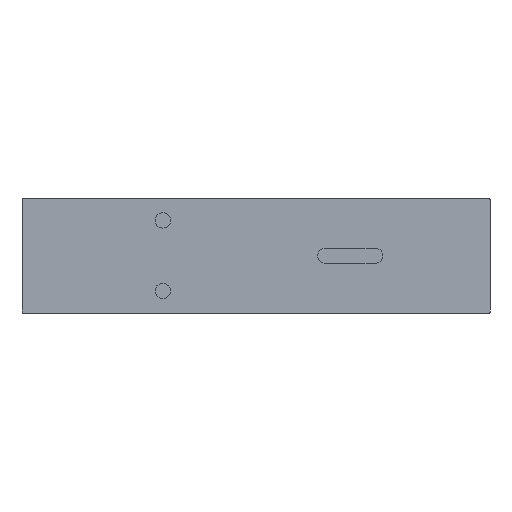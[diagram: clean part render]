
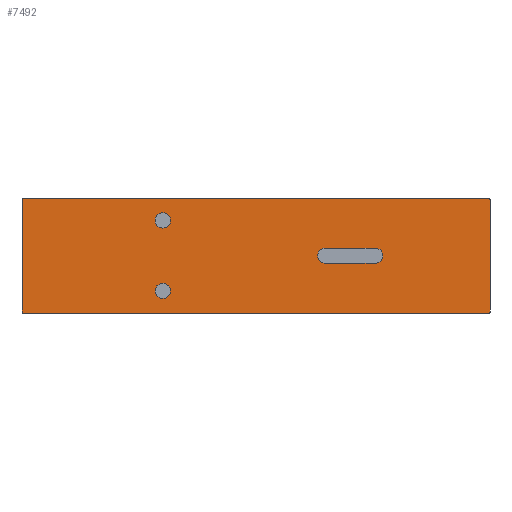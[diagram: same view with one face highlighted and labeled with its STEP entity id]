
A CAD part, left-side view. The second image highlights one B-rep face of the part: STEP entity #7492.
In plain terms, the highlighted planar face has unit normal (-1, 0, 0).
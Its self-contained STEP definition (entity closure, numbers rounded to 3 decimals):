
#4465=FACE_BOUND('',#12768,.T.);
#4466=FACE_BOUND('',#12769,.T.);
#4467=FACE_BOUND('',#12770,.T.);
#4468=FACE_BOUND('',#12771,.T.);
#6087=CIRCLE('',#40981,3.528);
#6088=CIRCLE('',#40982,0.5);
#6089=CIRCLE('',#40983,0.5);
#6090=CIRCLE('',#40984,0.5);
#6091=CIRCLE('',#40985,0.5);
#6092=CIRCLE('',#40986,3.528);
#6093=CIRCLE('',#40987,3.528);
#6094=CIRCLE('',#40988,3.528);
#7492=ADVANCED_FACE('',(#4465,#4466,#4467,#4468),#9768,.F.);
#9768=PLANE('',#40989);
#12768=EDGE_LOOP('',(#15653));
#12769=EDGE_LOOP('',(#15654,#15655,#15656,#15657,#15658,#15659,#15660,#15661));
#12770=EDGE_LOOP('',(#15662));
#12771=EDGE_LOOP('',(#15663,#15664,#15665,#15666));
#15653=ORIENTED_EDGE('',*,*,#30583,.F.);
#15654=ORIENTED_EDGE('',*,*,#30584,.F.);
#15655=ORIENTED_EDGE('',*,*,#30585,.T.);
#15656=ORIENTED_EDGE('',*,*,#30586,.F.);
#15657=ORIENTED_EDGE('',*,*,#30587,.T.);
#15658=ORIENTED_EDGE('',*,*,#30588,.T.);
#15659=ORIENTED_EDGE('',*,*,#30589,.T.);
#15660=ORIENTED_EDGE('',*,*,#30590,.F.);
#15661=ORIENTED_EDGE('',*,*,#30591,.T.);
#15662=ORIENTED_EDGE('',*,*,#30592,.F.);
#15663=ORIENTED_EDGE('',*,*,#30593,.F.);
#15664=ORIENTED_EDGE('',*,*,#30594,.F.);
#15665=ORIENTED_EDGE('',*,*,#30595,.F.);
#15666=ORIENTED_EDGE('',*,*,#30596,.F.);
#27043=VERTEX_POINT('',#55926);
#27044=VERTEX_POINT('',#55928);
#27045=VERTEX_POINT('',#55929);
#27046=VERTEX_POINT('',#55931);
#27047=VERTEX_POINT('',#55933);
#27048=VERTEX_POINT('',#55935);
#27049=VERTEX_POINT('',#55937);
#27050=VERTEX_POINT('',#55939);
#27051=VERTEX_POINT('',#55941);
#27052=VERTEX_POINT('',#55944);
#27053=VERTEX_POINT('',#55946);
#27054=VERTEX_POINT('',#55947);
#27055=VERTEX_POINT('',#55949);
#27056=VERTEX_POINT('',#55951);
#30583=EDGE_CURVE('',#27043,#27043,#6087,.T.);
#30584=EDGE_CURVE('',#27044,#27045,#36192,.T.);
#30585=EDGE_CURVE('',#27044,#27046,#6088,.T.);
#30586=EDGE_CURVE('',#27047,#27046,#36193,.T.);
#30587=EDGE_CURVE('',#27047,#27048,#6089,.T.);
#30588=EDGE_CURVE('',#27048,#27049,#36194,.T.);
#30589=EDGE_CURVE('',#27049,#27050,#6090,.T.);
#30590=EDGE_CURVE('',#27051,#27050,#36195,.T.);
#30591=EDGE_CURVE('',#27051,#27045,#6091,.T.);
#30592=EDGE_CURVE('',#27052,#27052,#6092,.T.);
#30593=EDGE_CURVE('',#27053,#27054,#6093,.T.);
#30594=EDGE_CURVE('',#27055,#27053,#36196,.T.);
#30595=EDGE_CURVE('',#27056,#27055,#6094,.T.);
#30596=EDGE_CURVE('',#27054,#27056,#36197,.T.);
#36192=LINE('',#55927,#38738);
#36193=LINE('',#55932,#38739);
#36194=LINE('',#55936,#38740);
#36195=LINE('',#55940,#38741);
#36196=LINE('',#55948,#38742);
#36197=LINE('',#55952,#38743);
#38738=VECTOR('',#44928,1.);
#38739=VECTOR('',#44931,1.);
#38740=VECTOR('',#44934,1.);
#38741=VECTOR('',#44937,1.);
#38742=VECTOR('',#44944,1.);
#38743=VECTOR('',#44947,1.);
#40981=AXIS2_PLACEMENT_3D('',#55925,#44926,#44927);
#40982=AXIS2_PLACEMENT_3D('',#55930,#44929,#44930);
#40983=AXIS2_PLACEMENT_3D('',#55934,#44932,#44933);
#40984=AXIS2_PLACEMENT_3D('',#55938,#44935,#44936);
#40985=AXIS2_PLACEMENT_3D('',#55942,#44938,#44939);
#40986=AXIS2_PLACEMENT_3D('',#55943,#44940,#44941);
#40987=AXIS2_PLACEMENT_3D('',#55945,#44942,#44943);
#40988=AXIS2_PLACEMENT_3D('',#55950,#44945,#44946);
#40989=AXIS2_PLACEMENT_3D('',#55953,#44948,#44949);
#44926=DIRECTION('',(-1.,0.,0.));
#44927=DIRECTION('',(0.,1.,0.));
#44928=DIRECTION('',(0.,1.,0.));
#44929=DIRECTION('',(-1.,0.,0.));
#44930=DIRECTION('',(0.,1.,0.));
#44931=DIRECTION('',(0.,0.,-1.));
#44932=DIRECTION('',(-1.,0.,0.));
#44933=DIRECTION('',(0.,1.,0.));
#44934=DIRECTION('',(0.,1.,0.));
#44935=DIRECTION('',(-1.,0.,0.));
#44936=DIRECTION('',(0.,0.,-1.));
#44937=DIRECTION('',(0.,0.,1.));
#44938=DIRECTION('',(-1.,0.,0.));
#44939=DIRECTION('',(0.,0.,-1.));
#44940=DIRECTION('',(-1.,0.,0.));
#44941=DIRECTION('',(0.,1.,0.));
#44942=DIRECTION('',(-1.,0.,0.));
#44943=DIRECTION('',(0.,1.,0.));
#44944=DIRECTION('',(0.,-1.,0.));
#44945=DIRECTION('',(-1.,0.,0.));
#44946=DIRECTION('',(0.,1.,0.));
#44947=DIRECTION('',(0.,1.,0.));
#44948=DIRECTION('',(1.,0.,0.));
#44949=DIRECTION('',(0.,1.,0.));
#55925=CARTESIAN_POINT('',(-0.1,151.,-42.75));
#55926=CARTESIAN_POINT('',(-0.1,154.528,-42.75));
#55927=CARTESIAN_POINT('',(-0.1,11.,-53.));
#55928=CARTESIAN_POINT('',(-0.1,0.5,-53.));
#55929=CARTESIAN_POINT('',(-0.1,215.5,-53.));
#55930=CARTESIAN_POINT('',(-0.1,0.5,-52.5));
#55931=CARTESIAN_POINT('',(-0.1,0.,-52.5));
#55932=CARTESIAN_POINT('',(-0.1,0.,0.));
#55933=CARTESIAN_POINT('',(-0.1,0.,-0.5));
#55934=CARTESIAN_POINT('',(-0.1,0.5,-0.5));
#55935=CARTESIAN_POINT('',(-0.1,0.5,0.));
#55936=CARTESIAN_POINT('',(-0.1,-21.078,0.));
#55937=CARTESIAN_POINT('',(-0.1,215.5,0.));
#55938=CARTESIAN_POINT('',(-0.1,215.5,-0.5));
#55939=CARTESIAN_POINT('',(-0.1,216.,-0.5));
#55940=CARTESIAN_POINT('',(-0.1,216.,-53.));
#55941=CARTESIAN_POINT('',(-0.1,216.,-52.5));
#55942=CARTESIAN_POINT('',(-0.1,215.5,-52.5));
#55943=CARTESIAN_POINT('',(-0.1,151.,-10.25));
#55944=CARTESIAN_POINT('',(-0.1,154.528,-10.25));
#55945=CARTESIAN_POINT('',(-0.1,53.,-26.5));
#55946=CARTESIAN_POINT('',(-0.1,53.,-30.028));
#55947=CARTESIAN_POINT('',(-0.1,53.,-22.972));
#55948=CARTESIAN_POINT('',(-0.1,76.,-30.028));
#55949=CARTESIAN_POINT('',(-0.1,76.,-30.028));
#55950=CARTESIAN_POINT('',(-0.1,76.,-26.5));
#55951=CARTESIAN_POINT('',(-0.1,76.,-22.972));
#55952=CARTESIAN_POINT('',(-0.1,53.,-22.972));
#55953=CARTESIAN_POINT('',(-0.1,-21.078,-175.));
